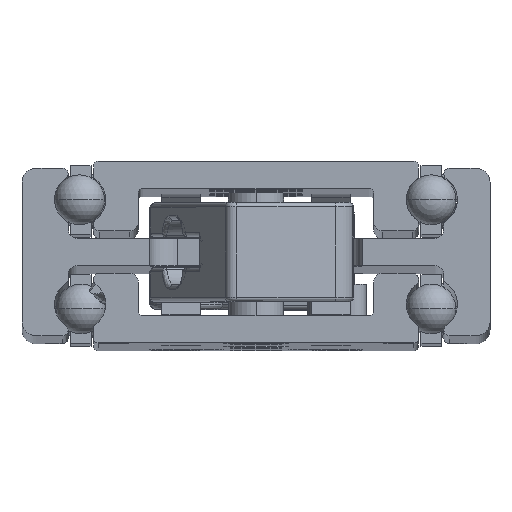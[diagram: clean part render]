
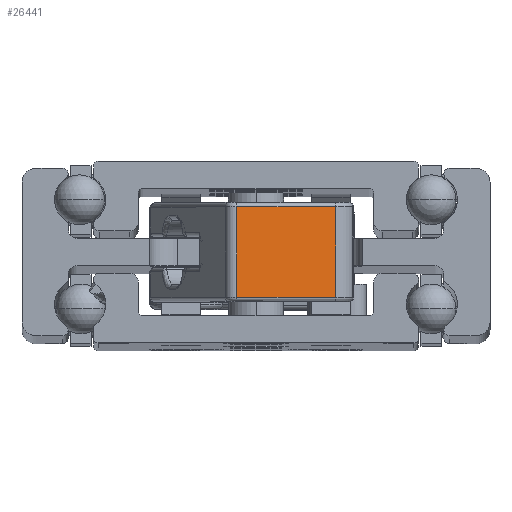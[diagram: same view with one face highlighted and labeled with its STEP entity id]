
A CAD part, top view. The second image highlights one B-rep face of the part: STEP entity #26441.
In plain terms, the highlighted planar face has unit normal (0.225, 0, 0.974) as drawn and (-1, 0, 0) by its records, which use the part's own axes.
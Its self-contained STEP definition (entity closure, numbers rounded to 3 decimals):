
#108 = CARTESIAN_POINT ( 'NONE',  ( -37., -4., -4.9 ) ) ;
#1541 = LINE ( 'NONE', #10701, #14973 ) ;
#2140 = VERTEX_POINT ( 'NONE', #12609 ) ;
#3098 = LINE ( 'NONE', #21341, #16364 ) ;
#3756 = DIRECTION ( 'NONE',  ( 0., 1., 0. ) ) ;
#4192 = DIRECTION ( 'NONE',  ( 0., -1., 0. ) ) ;
#4371 = DIRECTION ( 'NONE',  ( 0., 0., -1. ) ) ;
#4412 = AXIS2_PLACEMENT_3D ( 'NONE', #19499, #28682, #17240 ) ;
#5414 = EDGE_LOOP ( 'NONE', ( #5881, #23551, #5970, #11962 ) ) ;
#5881 = ORIENTED_EDGE ( 'NONE', *, *, #25362, .T. ) ;
#5970 = ORIENTED_EDGE ( 'NONE', *, *, #28353, .T. ) ;
#7648 = EDGE_CURVE ( 'NONE', #16448, #16877, #17908, .T. ) ;
#8484 = CARTESIAN_POINT ( 'NONE',  ( -37., 8., 4.9 ) ) ;
#8551 = CARTESIAN_POINT ( 'NONE',  ( -37., 8., 4.9 ) ) ;
#10287 = PLANE ( 'NONE',  #4412 ) ;
#10701 = CARTESIAN_POINT ( 'NONE',  ( -37., 8., 5.4 ) ) ;
#11236 = LINE ( 'NONE', #108, #27435 ) ;
#11668 = EDGE_CURVE ( 'NONE', #2140, #22534, #11236, .T. ) ;
#11962 = ORIENTED_EDGE ( 'NONE', *, *, #11668, .T. ) ;
#12274 = DIRECTION ( 'NONE',  ( 0., 0., 1. ) ) ;
#12609 = CARTESIAN_POINT ( 'NONE',  ( -37., 8., -4.9 ) ) ;
#14973 = VECTOR ( 'NONE', #4371, 1000. ) ;
#16364 = VECTOR ( 'NONE', #12274, 1000. ) ;
#16448 = VERTEX_POINT ( 'NONE', #28581 ) ;
#16877 = VERTEX_POINT ( 'NONE', #8484 ) ;
#17240 = DIRECTION ( 'NONE',  ( 0., 1., 0. ) ) ;
#17908 = LINE ( 'NONE', #8551, #18475 ) ;
#18475 = VECTOR ( 'NONE', #3756, 1000. ) ;
#18880 = FACE_OUTER_BOUND ( 'NONE', #5414, .T. ) ;
#19499 = CARTESIAN_POINT ( 'NONE',  ( -37., -4., 5.4 ) ) ;
#21341 = CARTESIAN_POINT ( 'NONE',  ( -37., -3., 5.4 ) ) ;
#22534 = VERTEX_POINT ( 'NONE', #22946 ) ;
#22946 = CARTESIAN_POINT ( 'NONE',  ( -37., -3., -4.9 ) ) ;
#23551 = ORIENTED_EDGE ( 'NONE', *, *, #7648, .T. ) ;
#25362 = EDGE_CURVE ( 'NONE', #22534, #16448, #3098, .T. ) ;
#26441 = ADVANCED_FACE ( 'NONE', ( #18880 ), #10287, .F. ) ;
#27435 = VECTOR ( 'NONE', #4192, 1000. ) ;
#28353 = EDGE_CURVE ( 'NONE', #16877, #2140, #1541, .T. ) ;
#28581 = CARTESIAN_POINT ( 'NONE',  ( -37., -3., 4.9 ) ) ;
#28682 = DIRECTION ( 'NONE',  ( 1., 0., 0. ) ) ;
